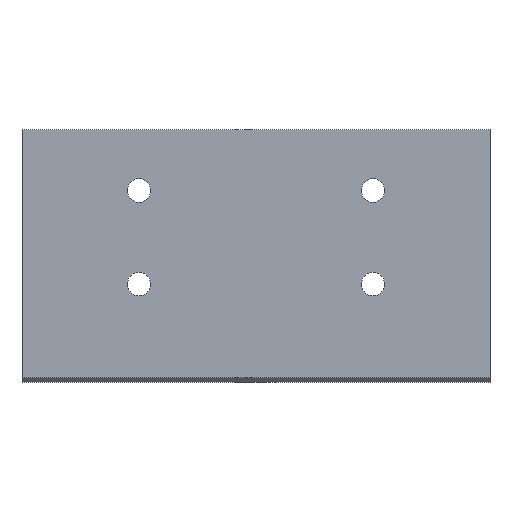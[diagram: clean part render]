
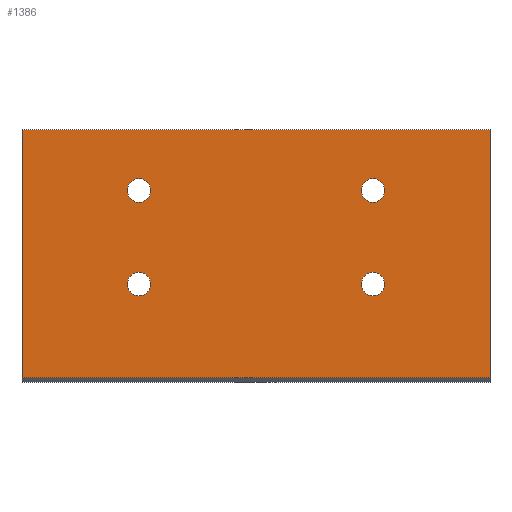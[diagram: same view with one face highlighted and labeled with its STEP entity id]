
A CAD part, front view. The second image highlights one B-rep face of the part: STEP entity #1386.
In plain terms, the highlighted planar face has unit normal (0, -1, 0).
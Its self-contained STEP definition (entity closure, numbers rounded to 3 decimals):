
#1 = CIRCLE ( 'NONE', #1001, 2.5 ) ;
#34 = VECTOR ( 'NONE', #395, 1000. ) ;
#35 = CIRCLE ( 'NONE', #768, 2.5 ) ;
#68 = CARTESIAN_POINT ( 'NONE',  ( 140.963, 13.789, -65.336 ) ) ;
#87 = CARTESIAN_POINT ( 'NONE',  ( 63.463, 13.789, -45.336 ) ) ;
#88 = CIRCLE ( 'NONE', #527, 2.5 ) ;
#116 = CARTESIAN_POINT ( 'NONE',  ( 68.463, 13.789, -45.336 ) ) ;
#133 = VERTEX_POINT ( 'NONE', #68 ) ;
#153 = VERTEX_POINT ( 'NONE', #87 ) ;
#171 = CARTESIAN_POINT ( 'NONE',  ( 68.463, 13.789, -25.336 ) ) ;
#212 = CARTESIAN_POINT ( 'NONE',  ( 40.963, 13.789, -65.336 ) ) ;
#213 = CIRCLE ( 'NONE', #818, 2.5 ) ;
#216 = CIRCLE ( 'NONE', #1014, 2.5 ) ;
#231 = CARTESIAN_POINT ( 'NONE',  ( 140.963, 13.789, -66.336 ) ) ;
#243 = CARTESIAN_POINT ( 'NONE',  ( 115.963, 13.789, -25.336 ) ) ;
#245 = DIRECTION ( 'NONE',  ( 0., -1., 0. ) ) ;
#246 = DIRECTION ( 'NONE',  ( 1., 0., 0. ) ) ;
#277 = CARTESIAN_POINT ( 'NONE',  ( 113.463, 13.789, -45.336 ) ) ;
#296 = CIRCLE ( 'NONE', #870, 2.5 ) ;
#305 = LINE ( 'NONE', #379, #34 ) ;
#352 = FACE_BOUND ( 'NONE', #1214, .T. ) ;
#363 = CARTESIAN_POINT ( 'NONE',  ( 115.963, 13.789, -45.336 ) ) ;
#364 = DIRECTION ( 'NONE',  ( 0., -1., 0. ) ) ;
#365 = FACE_BOUND ( 'NONE', #480, .T. ) ;
#366 = DIRECTION ( 'NONE',  ( 1., 0., 0. ) ) ;
#379 = CARTESIAN_POINT ( 'NONE',  ( 140.963, 13.789, -66.336 ) ) ;
#395 = DIRECTION ( 'NONE',  ( 0., 0., -1. ) ) ;
#409 = CARTESIAN_POINT ( 'NONE',  ( 65.963, 13.789, -45.336 ) ) ;
#411 = DIRECTION ( 'NONE',  ( 0., -1., 0. ) ) ;
#413 = DIRECTION ( 'NONE',  ( 1., 0., 0. ) ) ;
#418 = VERTEX_POINT ( 'NONE', #116 ) ;
#419 = CARTESIAN_POINT ( 'NONE',  ( 115.963, 13.789, -25.336 ) ) ;
#421 = DIRECTION ( 'NONE',  ( 0., -1., 0. ) ) ;
#422 = VECTOR ( 'NONE', #516, 1000. ) ;
#423 = DIRECTION ( 'NONE',  ( 1., 0., 0. ) ) ;
#447 = CIRCLE ( 'NONE', #524, 2.5 ) ;
#451 = CARTESIAN_POINT ( 'NONE',  ( 63.463, 13.789, -25.336 ) ) ;
#453 = FACE_OUTER_BOUND ( 'NONE', #1148, .T. ) ;
#470 = CARTESIAN_POINT ( 'NONE',  ( 140.963, 13.789, -12.336 ) ) ;
#480 = EDGE_LOOP ( 'NONE', ( #1272, #1021 ) ) ;
#483 = VERTEX_POINT ( 'NONE', #171 ) ;
#486 = DIRECTION ( 'NONE',  ( 1., 0., 0. ) ) ;
#490 = CARTESIAN_POINT ( 'NONE',  ( 65.963, 13.789, -25.336 ) ) ;
#491 = DIRECTION ( 'NONE',  ( 0., -1., 0. ) ) ;
#493 = DIRECTION ( 'NONE',  ( 1., 0., 0. ) ) ;
#495 = CARTESIAN_POINT ( 'NONE',  ( 140.963, 13.789, -12.336 ) ) ;
#498 = CARTESIAN_POINT ( 'NONE',  ( 65.963, 13.789, -45.336 ) ) ;
#499 = DIRECTION ( 'NONE',  ( 0., -1., 0. ) ) ;
#502 = DIRECTION ( 'NONE',  ( 1., 0., 0. ) ) ;
#516 = DIRECTION ( 'NONE',  ( -1., 0., 0. ) ) ;
#521 = CARTESIAN_POINT ( 'NONE',  ( 40.963, 13.789, -66.336 ) ) ;
#523 = CARTESIAN_POINT ( 'NONE',  ( 140.963, 13.789, -65.336 ) ) ;
#524 = AXIS2_PLACEMENT_3D ( 'NONE', #243, #245, #246 ) ;
#525 = CARTESIAN_POINT ( 'NONE',  ( 113.463, 13.789, -25.336 ) ) ;
#527 = AXIS2_PLACEMENT_3D ( 'NONE', #363, #364, #366 ) ;
#528 = DIRECTION ( 'NONE',  ( 0., 0., 1. ) ) ;
#566 = ORIENTED_EDGE ( 'NONE', *, *, #1340, .F. ) ;
#604 = VERTEX_POINT ( 'NONE', #212 ) ;
#626 = LINE ( 'NONE', #521, #1227 ) ;
#629 = EDGE_CURVE ( 'NONE', #1269, #1491, #447, .T. ) ;
#659 = CARTESIAN_POINT ( 'NONE',  ( 65.963, 13.789, -25.336 ) ) ;
#660 = DIRECTION ( 'NONE',  ( 0., -1., 0. ) ) ;
#665 = DIRECTION ( 'NONE',  ( 1., 0., 0. ) ) ;
#676 = DIRECTION ( 'NONE',  ( 0., 1., 0. ) ) ;
#695 = PLANE ( 'NONE',  #1311 ) ;
#704 = CARTESIAN_POINT ( 'NONE',  ( 40.963, 13.789, -12.336 ) ) ;
#713 = DIRECTION ( 'NONE',  ( -1., 0., 0. ) ) ;
#726 = EDGE_CURVE ( 'NONE', #1435, #1091, #88, .T. ) ;
#738 = LINE ( 'NONE', #495, #960 ) ;
#753 = ORIENTED_EDGE ( 'NONE', *, *, #1234, .F. ) ;
#756 = ORIENTED_EDGE ( 'NONE', *, *, #1034, .F. ) ;
#768 = AXIS2_PLACEMENT_3D ( 'NONE', #409, #411, #413 ) ;
#781 = ORIENTED_EDGE ( 'NONE', *, *, #878, .F. ) ;
#818 = AXIS2_PLACEMENT_3D ( 'NONE', #659, #660, #665 ) ;
#870 = AXIS2_PLACEMENT_3D ( 'NONE', #419, #421, #423 ) ;
#878 = EDGE_CURVE ( 'NONE', #1250, #133, #305, .T. ) ;
#926 = CARTESIAN_POINT ( 'NONE',  ( 118.463, 13.789, -45.336 ) ) ;
#958 = CIRCLE ( 'NONE', #1256, 2.5 ) ;
#960 = VECTOR ( 'NONE', #486, 1000. ) ;
#965 = ORIENTED_EDGE ( 'NONE', *, *, #1268, .F. ) ;
#980 = CARTESIAN_POINT ( 'NONE',  ( 118.463, 13.789, -25.336 ) ) ;
#984 = EDGE_LOOP ( 'NONE', ( #1194, #756 ) ) ;
#1001 = AXIS2_PLACEMENT_3D ( 'NONE', #1131, #1132, #1135 ) ;
#1014 = AXIS2_PLACEMENT_3D ( 'NONE', #490, #491, #493 ) ;
#1021 = ORIENTED_EDGE ( 'NONE', *, *, #1066, .F. ) ;
#1023 = ORIENTED_EDGE ( 'NONE', *, *, #1261, .F. ) ;
#1034 = EDGE_CURVE ( 'NONE', #153, #418, #35, .T. ) ;
#1043 = EDGE_CURVE ( 'NONE', #1491, #1269, #296, .T. ) ;
#1051 = EDGE_LOOP ( 'NONE', ( #753, #566 ) ) ;
#1066 = EDGE_CURVE ( 'NONE', #1091, #1435, #1, .T. ) ;
#1088 = LINE ( 'NONE', #523, #422 ) ;
#1091 = VERTEX_POINT ( 'NONE', #277 ) ;
#1131 = CARTESIAN_POINT ( 'NONE',  ( 115.963, 13.789, -45.336 ) ) ;
#1132 = DIRECTION ( 'NONE',  ( 0., -1., 0. ) ) ;
#1135 = DIRECTION ( 'NONE',  ( 1., 0., 0. ) ) ;
#1148 = EDGE_LOOP ( 'NONE', ( #1023, #781, #1422, #965 ) ) ;
#1188 = VERTEX_POINT ( 'NONE', #451 ) ;
#1194 = ORIENTED_EDGE ( 'NONE', *, *, #1238, .F. ) ;
#1214 = EDGE_LOOP ( 'NONE', ( #1258, #1434 ) ) ;
#1227 = VECTOR ( 'NONE', #528, 1000. ) ;
#1234 = EDGE_CURVE ( 'NONE', #483, #1188, #216, .T. ) ;
#1238 = EDGE_CURVE ( 'NONE', #418, #153, #958, .T. ) ;
#1248 = EDGE_CURVE ( 'NONE', #1389, #1250, #738, .T. ) ;
#1250 = VERTEX_POINT ( 'NONE', #470 ) ;
#1256 = AXIS2_PLACEMENT_3D ( 'NONE', #498, #499, #502 ) ;
#1258 = ORIENTED_EDGE ( 'NONE', *, *, #1043, .F. ) ;
#1261 = EDGE_CURVE ( 'NONE', #133, #604, #1088, .T. ) ;
#1268 = EDGE_CURVE ( 'NONE', #604, #1389, #626, .T. ) ;
#1269 = VERTEX_POINT ( 'NONE', #525 ) ;
#1272 = ORIENTED_EDGE ( 'NONE', *, *, #726, .F. ) ;
#1311 = AXIS2_PLACEMENT_3D ( 'NONE', #231, #676, #713 ) ;
#1340 = EDGE_CURVE ( 'NONE', #1188, #483, #213, .T. ) ;
#1386 = ADVANCED_FACE ( 'NONE', ( #453, #365, #1388, #1532, #352 ), #695, .F. ) ;
#1388 = FACE_BOUND ( 'NONE', #984, .T. ) ;
#1389 = VERTEX_POINT ( 'NONE', #704 ) ;
#1422 = ORIENTED_EDGE ( 'NONE', *, *, #1248, .F. ) ;
#1434 = ORIENTED_EDGE ( 'NONE', *, *, #629, .F. ) ;
#1435 = VERTEX_POINT ( 'NONE', #926 ) ;
#1491 = VERTEX_POINT ( 'NONE', #980 ) ;
#1532 = FACE_BOUND ( 'NONE', #1051, .T. ) ;
